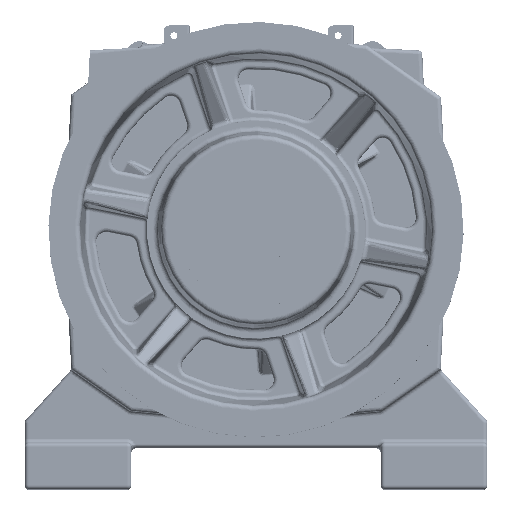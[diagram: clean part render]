
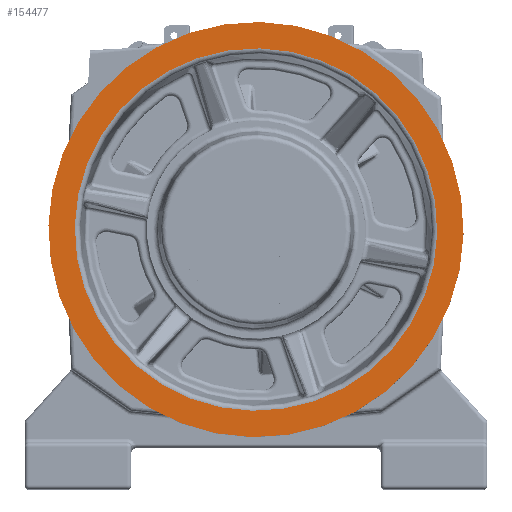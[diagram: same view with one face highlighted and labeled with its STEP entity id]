
A CAD part, top view. The second image highlights one B-rep face of the part: STEP entity #154477.
In plain terms, the highlighted planar face has unit normal (0, 0, 1).
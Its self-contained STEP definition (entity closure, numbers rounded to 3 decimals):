
#7355 = CARTESIAN_POINT ( 'NONE',  ( -24.077, 119.337, 1180.906 ) ) ;
#19425 = EDGE_LOOP ( 'NONE', ( #126203, #140943 ) ) ;
#23996 = CARTESIAN_POINT ( 'NONE',  ( -7.332, 138.46, 1180.906 ) ) ;
#25816 = CARTESIAN_POINT ( 'NONE',  ( -139.084, -12.01, 1180.906 ) ) ;
#34711 = CARTESIAN_POINT ( 'NONE',  ( -270.836, -162.481, 1180.906 ) ) ;
#41122 = EDGE_CURVE ( 'NONE', #159742, #107273, #170408, .T. ) ;
#42714 = AXIS2_PLACEMENT_3D ( 'NONE', #125291, #169237, #137754 ) ;
#43842 = PLANE ( 'NONE',  #135498 ) ;
#45710 = CIRCLE ( 'NONE', #42714, 200. ) ;
#49702 = AXIS2_PLACEMENT_3D ( 'NONE', #60227, #103177, #58349 ) ;
#52998 = VERTEX_POINT ( 'NONE', #23996 ) ;
#58349 = DIRECTION ( 'NONE',  ( 0.659, 0.752, 0. ) ) ;
#60227 = CARTESIAN_POINT ( 'NONE',  ( -139.084, -12.01, 1180.906 ) ) ;
#69655 = DIRECTION ( 'NONE',  ( 0., 0., -1. ) ) ;
#76999 = DIRECTION ( 'NONE',  ( 0., 0., -1. ) ) ;
#77975 = CARTESIAN_POINT ( 'NONE',  ( -254.092, -143.357, 1180.906 ) ) ;
#87238 = EDGE_CURVE ( 'NONE', #107273, #159742, #177904, .T. ) ;
#87685 = CARTESIAN_POINT ( 'NONE',  ( -11.184, -123.999, 1180.906 ) ) ;
#88641 = DIRECTION ( 'NONE',  ( 0., 0., 1. ) ) ;
#92277 = DIRECTION ( 'NONE',  ( -0.659, -0.752, 0. ) ) ;
#103177 = DIRECTION ( 'NONE',  ( 0., 0., -1. ) ) ;
#104563 = ORIENTED_EDGE ( 'NONE', *, *, #187242, .F. ) ;
#107273 = VERTEX_POINT ( 'NONE', #77975 ) ;
#108607 = VERTEX_POINT ( 'NONE', #34711 ) ;
#110024 = ORIENTED_EDGE ( 'NONE', *, *, #146150, .F. ) ;
#118478 = AXIS2_PLACEMENT_3D ( 'NONE', #178253, #76999, #92277 ) ;
#125291 = CARTESIAN_POINT ( 'NONE',  ( -139.084, -12.01, 1180.906 ) ) ;
#126203 = ORIENTED_EDGE ( 'NONE', *, *, #87238, .T. ) ;
#129081 = AXIS2_PLACEMENT_3D ( 'NONE', #25816, #69655, #158446 ) ;
#130694 = FACE_BOUND ( 'NONE', #19425, .T. ) ;
#135498 = AXIS2_PLACEMENT_3D ( 'NONE', #87685, #88641, #145967 ) ;
#137754 = DIRECTION ( 'NONE',  ( 0.659, 0.752, 0. ) ) ;
#140943 = ORIENTED_EDGE ( 'NONE', *, *, #41122, .T. ) ;
#145967 = DIRECTION ( 'NONE',  ( -0.659, -0.752, 0. ) ) ;
#146150 = EDGE_CURVE ( 'NONE', #108607, #52998, #183810, .T. ) ;
#154477 = ADVANCED_FACE ( 'NONE', ( #130694, #188940 ), #43842, .T. ) ;
#158446 = DIRECTION ( 'NONE',  ( -0.659, -0.752, 0. ) ) ;
#159742 = VERTEX_POINT ( 'NONE', #7355 ) ;
#169237 = DIRECTION ( 'NONE',  ( 0., 0., -1. ) ) ;
#170408 = CIRCLE ( 'NONE', #118478, 174.582 ) ;
#177904 = CIRCLE ( 'NONE', #129081, 174.582 ) ;
#178253 = CARTESIAN_POINT ( 'NONE',  ( -139.084, -12.01, 1180.906 ) ) ;
#183810 = CIRCLE ( 'NONE', #49702, 200. ) ;
#185297 = EDGE_LOOP ( 'NONE', ( #104563, #110024 ) ) ;
#187242 = EDGE_CURVE ( 'NONE', #52998, #108607, #45710, .T. ) ;
#188940 = FACE_OUTER_BOUND ( 'NONE', #185297, .T. ) ;
